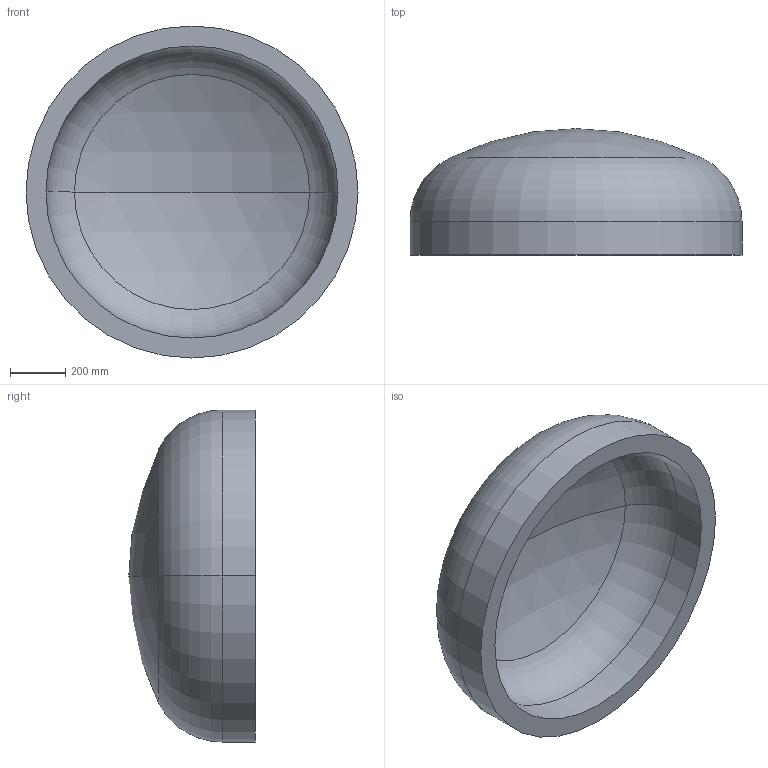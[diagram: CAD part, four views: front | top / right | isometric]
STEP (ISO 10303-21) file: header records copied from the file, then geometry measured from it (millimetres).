
FILE_DESCRIPTION (( 'STEP AP203' ), '1' );
FILE_NAME ('DIN 28013 Korbbogenform_-_Boden DIN 28013 - 1200 x 120 - I - s=72.step', '2016-07-01T09:34:04', ( '' ), ( '' ), 'SwSTEP 2.0', 'SolidWorks 2013', '' );
FILE_SCHEMA (( 'CONFIG_CONTROL_DESIGN' ));
Length unit declared in the file: millimetre
Products named in the file (1): DIN 28013 Korbbogenform_-_Boden DIN 28013 - 1200 x 120 - I - s=72
Bounding box: 1200 x 457.04 x 1200 mm (x, y, z)
Volume: 135116553.7 mm3; surface area: 4019241.7 mm2
Topology: 1 solids, 1 shells, 13 faces, 24 edges, 14 vertices
Faces by surface type: torus 4, cylinder 4, sphere 4, plane 1
Entity records: 407 total; most frequent: DIRECTION 72, CARTESIAN_POINT 52, ORIENTED_EDGE 48, AXIS2_PLACEMENT_3D 34, EDGE_CURVE 24, CIRCLE 20, EDGE_LOOP 14, VERTEX_POINT 14
